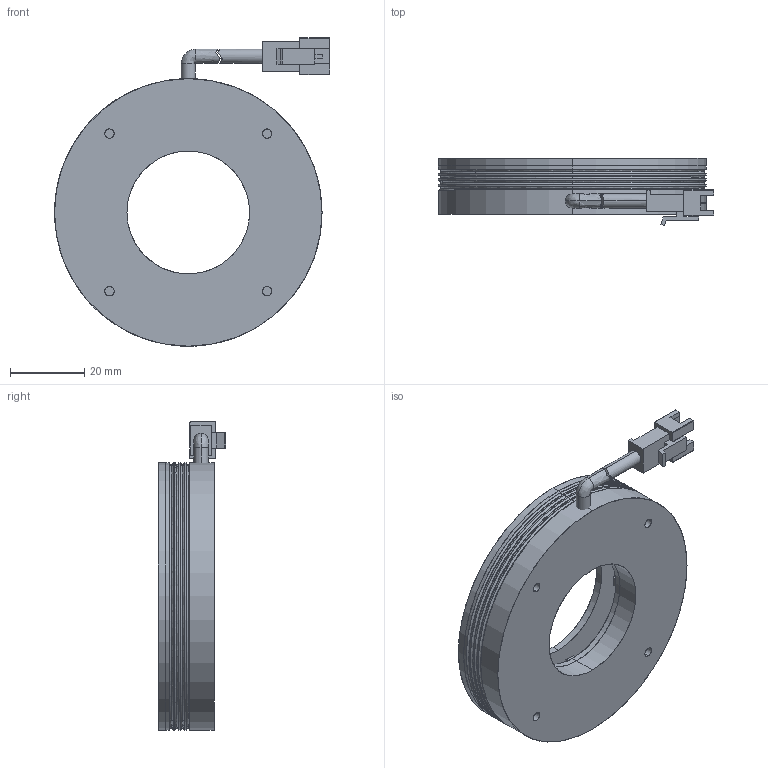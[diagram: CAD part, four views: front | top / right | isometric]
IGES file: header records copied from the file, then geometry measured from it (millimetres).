
Start section: SolidWorks IGES file using analytic representation for surfaces
Global section: file name: E:\SynologyDrive\新款图纸\标准产品\环光\环光00\R7200-33\ED\R7200-33.IGS; native system: SolidWorks 2020; preprocessor: SolidWorks 2020; author: Administrator; date: 200827.093302; units: millimetre
Bounding box: 74 x 18.15 x 83 mm (x, y, z)
Surface area: 26085.2 mm2 (no closed solid volume)
Topology: 0 solids, 0 shells, 275 faces, 3652 edges, 3628 vertices
Faces by surface type: bspline 159, revolution 116
